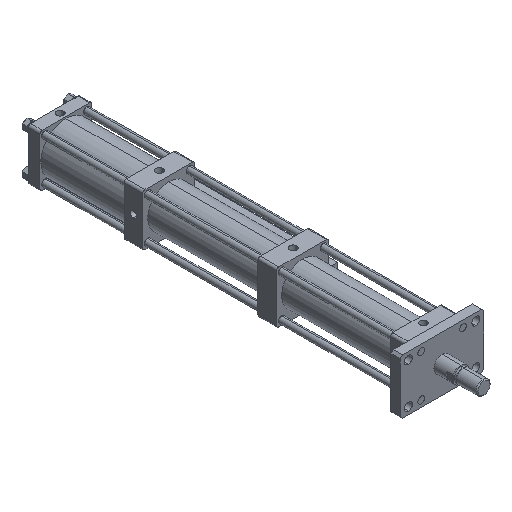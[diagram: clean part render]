
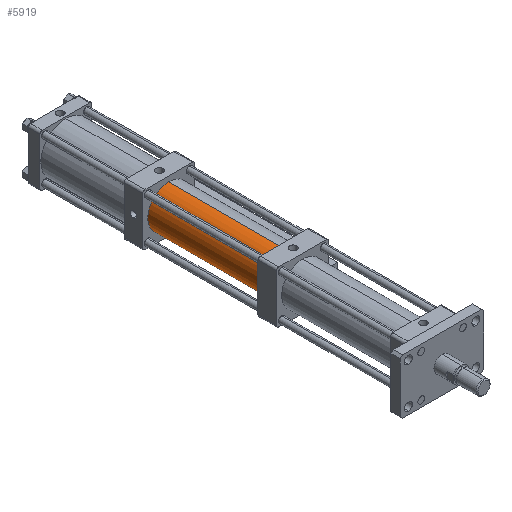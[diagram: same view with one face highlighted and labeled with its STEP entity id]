
A CAD part, isometric view. The second image highlights one B-rep face of the part: STEP entity #5919.
In plain terms, the highlighted cylindrical face has radius 45 mm (diameter 90 mm), a partial arc.
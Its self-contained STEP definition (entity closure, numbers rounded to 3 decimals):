
#158 = DIRECTION ( 'NONE',  ( 0., -1., 0. ) ) ;
#495 = DIRECTION ( 'NONE',  ( 0., 0., -1. ) ) ;
#866 = VERTEX_POINT ( 'NONE', #5184 ) ;
#1194 = ORIENTED_EDGE ( 'NONE', *, *, #5320, .T. ) ;
#1249 = CARTESIAN_POINT ( 'NONE',  ( 0., 340.002, -45. ) ) ;
#1422 = LINE ( 'NONE', #6931, #4511 ) ;
#1520 = VERTEX_POINT ( 'NONE', #3337 ) ;
#1756 = DIRECTION ( 'NONE',  ( 0., 1., 0. ) ) ;
#1776 = EDGE_CURVE ( 'NONE', #7747, #2692, #2479, .T. ) ;
#1835 = EDGE_LOOP ( 'NONE', ( #6534, #5875, #4166, #1194 ) ) ;
#2130 = AXIS2_PLACEMENT_3D ( 'NONE', #3340, #7649, #3966 ) ;
#2479 = LINE ( 'NONE', #5083, #7211 ) ;
#2692 = VERTEX_POINT ( 'NONE', #1249 ) ;
#2891 = EDGE_CURVE ( 'NONE', #7747, #1520, #6036, .T. ) ;
#2970 = CARTESIAN_POINT ( 'NONE',  ( 0., 588.002, 0. ) ) ;
#3199 = CIRCLE ( 'NONE', #4913, 45. ) ;
#3337 = CARTESIAN_POINT ( 'NONE',  ( 0., 588.002, 45. ) ) ;
#3340 = CARTESIAN_POINT ( 'NONE',  ( 0., 588.002, 0. ) ) ;
#3966 = DIRECTION ( 'NONE',  ( 0., 0., 1. ) ) ;
#4166 = ORIENTED_EDGE ( 'NONE', *, *, #1776, .T. ) ;
#4469 = DIRECTION ( 'NONE',  ( 0., -1., 0. ) ) ;
#4511 = VECTOR ( 'NONE', #4469, 1000. ) ;
#4913 = AXIS2_PLACEMENT_3D ( 'NONE', #5451, #1756, #6072 ) ;
#5083 = CARTESIAN_POINT ( 'NONE',  ( 0., 588.002, -45. ) ) ;
#5184 = CARTESIAN_POINT ( 'NONE',  ( 0., 340.002, 45. ) ) ;
#5320 = EDGE_CURVE ( 'NONE', #2692, #866, #3199, .T. ) ;
#5451 = CARTESIAN_POINT ( 'NONE',  ( 0., 340.002, 0. ) ) ;
#5501 = FACE_OUTER_BOUND ( 'NONE', #1835, .T. ) ;
#5619 = CARTESIAN_POINT ( 'NONE',  ( 0., 588.002, -45. ) ) ;
#5875 = ORIENTED_EDGE ( 'NONE', *, *, #2891, .F. ) ;
#5919 = ADVANCED_FACE ( 'NONE', ( #5501 ), #6942, .T. ) ;
#6036 = CIRCLE ( 'NONE', #2130, 45. ) ;
#6072 = DIRECTION ( 'NONE',  ( 0., 0., 1. ) ) ;
#6534 = ORIENTED_EDGE ( 'NONE', *, *, #6859, .F. ) ;
#6859 = EDGE_CURVE ( 'NONE', #1520, #866, #1422, .T. ) ;
#6931 = CARTESIAN_POINT ( 'NONE',  ( 0., 588.002, 45. ) ) ;
#6942 = CYLINDRICAL_SURFACE ( 'NONE', #7121, 45. ) ;
#7121 = AXIS2_PLACEMENT_3D ( 'NONE', #2970, #7882, #495 ) ;
#7211 = VECTOR ( 'NONE', #158, 1000. ) ;
#7649 = DIRECTION ( 'NONE',  ( 0., 1., 0. ) ) ;
#7747 = VERTEX_POINT ( 'NONE', #5619 ) ;
#7882 = DIRECTION ( 'NONE',  ( 0., -1., 0. ) ) ;
